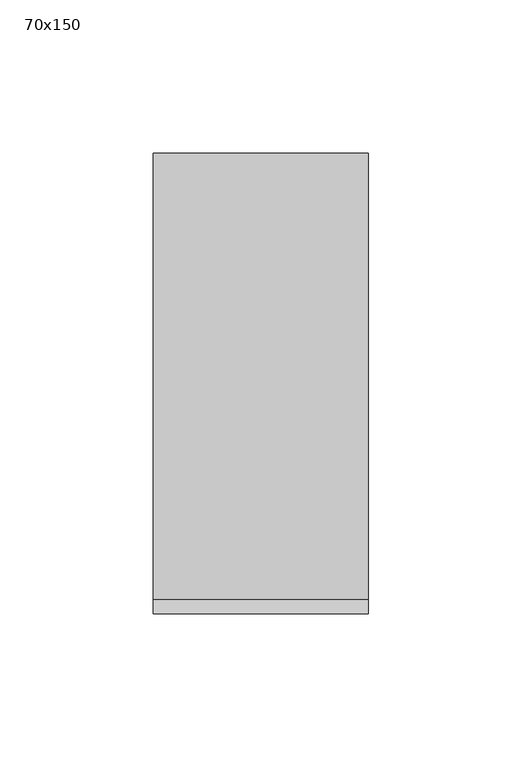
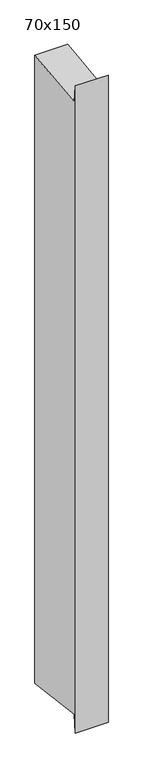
"""IFC4 building model written with IfcOpenShell, lengths in millimetres: member geometry, 長方形のマリオン : 70x150."""

from ifc_helpers import new_model, si_unit, frame, origin, place, context, project, spatial, polyline, outline, extrude, source, transform, mapped, element, save


def member_70x150_618c0de7(model_context):
    return source(origin(), model_context, "Body", "SweptSolid", [
        extrude(outline(polyline([(-75.0, 30.4702659), (-70.2424427, -8.7721286), (75.0, 8.8363597), (75.0, -1412.7945963), (-70.2424427, -1395.186108), (-75.0, -1434.4285025), (-75.0, 30.4702659)])), frame((-70.0, 0.0, 0.0), z_axis=(1.0, 0.0, 0.0), x_axis=(0.0, 1.0, 0.0)), (0.0, 0.0, 1.0), 70.0),
    ])


if __name__ == "__main__":
    model = new_model("IFC4")
    model_context = context("Model", 3, world=origin())
    ifc_project = project(units=[si_unit("LENGTHUNIT", "METRE", prefix="MILLI")], contexts=[model_context])
    site = spatial("IfcSite", under=ifc_project)
    building = spatial("IfcBuilding", under=site)
    placement = place(None, origin())
    member_70x150_shape = member_70x150_618c0de7(model_context)
    element("IfcMember", 1, ObjectType="長方形のマリオン : 70x150", at=placement, inside=building, context=model_context, shape_type="MappedRepresentation", body=[
        mapped(member_70x150_shape, transform((0.0, 0.0, 0.0), x_axis=(1.0, 0.0, 0.0), y_axis=(0.0, 1.0, 0.0), z_axis=(0.0, 0.0, 1.0))),
    ])
    save(model, "model.ifc")
